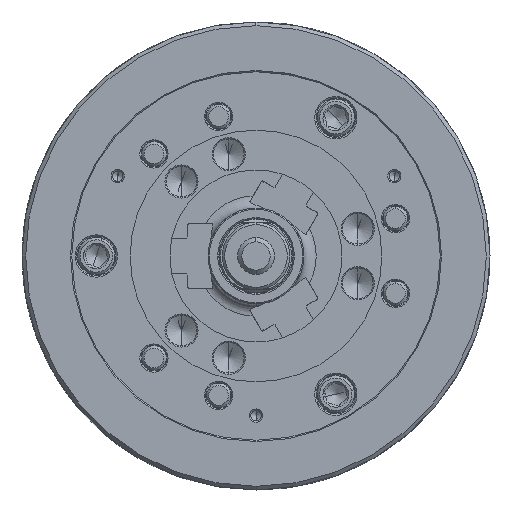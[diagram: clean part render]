
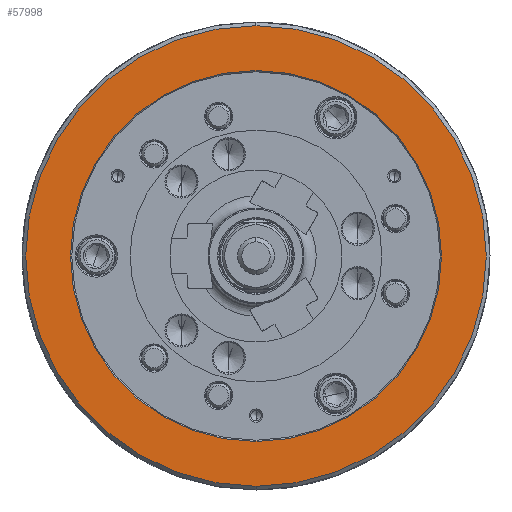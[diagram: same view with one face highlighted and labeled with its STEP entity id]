
A CAD part, left-side view. The second image highlights one B-rep face of the part: STEP entity #57998.
In plain terms, the highlighted planar face has unit normal (-1, 0, 0).
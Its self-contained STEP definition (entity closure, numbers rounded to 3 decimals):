
#1077 = CARTESIAN_POINT ( 'NONE',  ( -114., 0., 151. ) ) ;
#4235 = DIRECTION ( 'NONE',  ( 1., 0., 0. ) ) ;
#7797 = CIRCLE ( 'NONE', #105620, 187.5 ) ;
#8666 = FACE_OUTER_BOUND ( 'NONE', #20416, .T. ) ;
#8875 = DIRECTION ( 'NONE',  ( 1., 0., 0. ) ) ;
#9307 = DIRECTION ( 'NONE',  ( 0., 0., -1. ) ) ;
#10628 = FACE_BOUND ( 'NONE', #51226, .T. ) ;
#14152 = ORIENTED_EDGE ( 'NONE', *, *, #116485, .F. ) ;
#16893 = CARTESIAN_POINT ( 'NONE',  ( -114., 0., 0. ) ) ;
#17448 = AXIS2_PLACEMENT_3D ( 'NONE', #110536, #121188, #9307 ) ;
#20416 = EDGE_LOOP ( 'NONE', ( #14152, #45611 ) ) ;
#21022 = CARTESIAN_POINT ( 'NONE',  ( -114., 0., 0. ) ) ;
#30324 = EDGE_CURVE ( 'NONE', #41931, #49474, #53038, .T. ) ;
#39520 = AXIS2_PLACEMENT_3D ( 'NONE', #121856, #131202, #79289 ) ;
#41027 = DIRECTION ( 'NONE',  ( 0., 0., -1. ) ) ;
#41931 = VERTEX_POINT ( 'NONE', #119292 ) ;
#45611 = ORIENTED_EDGE ( 'NONE', *, *, #69046, .F. ) ;
#49474 = VERTEX_POINT ( 'NONE', #1077 ) ;
#49873 = VERTEX_POINT ( 'NONE', #60216 ) ;
#51226 = EDGE_LOOP ( 'NONE', ( #88614, #106031 ) ) ;
#53038 = CIRCLE ( 'NONE', #70091, 151. ) ;
#57998 = ADVANCED_FACE ( 'NONE', ( #8666, #10628 ), #110548, .F. ) ;
#60216 = CARTESIAN_POINT ( 'NONE',  ( -114., 0., 187.5 ) ) ;
#68866 = DIRECTION ( 'NONE',  ( 0., 0., -1. ) ) ;
#69046 = EDGE_CURVE ( 'NONE', #49873, #96340, #110628, .T. ) ;
#70091 = AXIS2_PLACEMENT_3D ( 'NONE', #21022, #73658, #41027 ) ;
#73658 = DIRECTION ( 'NONE',  ( 1., 0., 0. ) ) ;
#74900 = CIRCLE ( 'NONE', #17448, 151. ) ;
#79289 = DIRECTION ( 'NONE',  ( 0., 0., -1. ) ) ;
#83856 = EDGE_CURVE ( 'NONE', #49474, #41931, #74900, .T. ) ;
#88614 = ORIENTED_EDGE ( 'NONE', *, *, #83856, .T. ) ;
#95501 = CARTESIAN_POINT ( 'NONE',  ( -114., 0., 0. ) ) ;
#96340 = VERTEX_POINT ( 'NONE', #128511 ) ;
#105620 = AXIS2_PLACEMENT_3D ( 'NONE', #16893, #8875, #68866 ) ;
#106031 = ORIENTED_EDGE ( 'NONE', *, *, #30324, .T. ) ;
#110536 = CARTESIAN_POINT ( 'NONE',  ( -114., 0., 0. ) ) ;
#110548 = PLANE ( 'NONE',  #39520 ) ;
#110628 = CIRCLE ( 'NONE', #130185, 187.5 ) ;
#116124 = DIRECTION ( 'NONE',  ( 0., 0., -1. ) ) ;
#116485 = EDGE_CURVE ( 'NONE', #96340, #49873, #7797, .T. ) ;
#119292 = CARTESIAN_POINT ( 'NONE',  ( -114., 0., -151. ) ) ;
#121188 = DIRECTION ( 'NONE',  ( 1., 0., 0. ) ) ;
#121856 = CARTESIAN_POINT ( 'NONE',  ( -114., -187.5, 0. ) ) ;
#128511 = CARTESIAN_POINT ( 'NONE',  ( -114., 0., -187.5 ) ) ;
#130185 = AXIS2_PLACEMENT_3D ( 'NONE', #95501, #4235, #116124 ) ;
#131202 = DIRECTION ( 'NONE',  ( 1., 0., 0. ) ) ;
